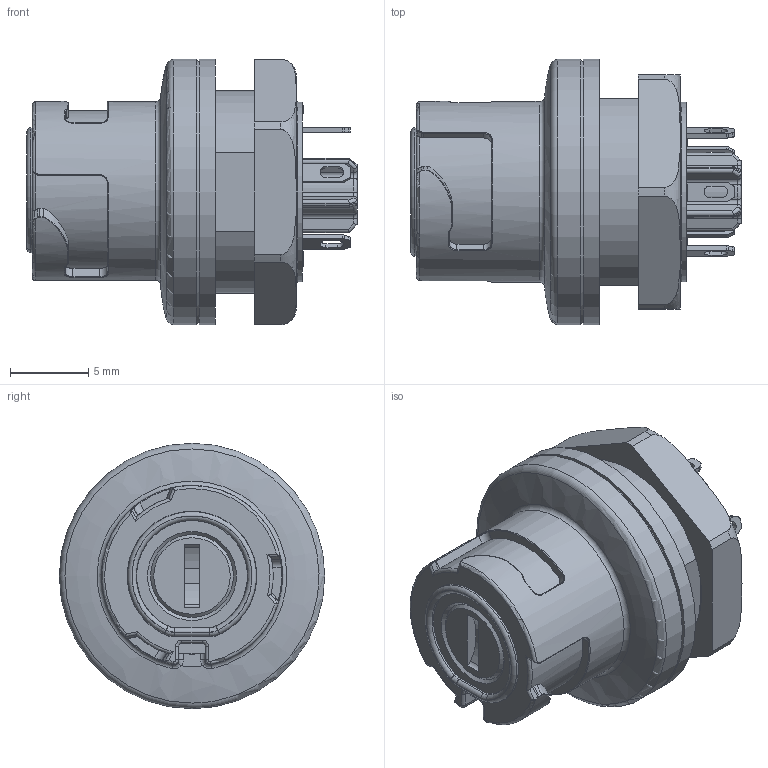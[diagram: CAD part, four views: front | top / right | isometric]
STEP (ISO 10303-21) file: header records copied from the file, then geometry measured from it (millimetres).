
FILE_DESCRIPTION(/* description */ (''),/* implementation_level */ '2;1');
FILE_NAME(/* name */ '09 0762 000 05 001.stp',/* time_stamp */ '2021-04-26T09:52:12+02:00',/* author */ (''),/* organization */ (''),/* preprocessor_version */ 'ST-DEVELOPER v16',/* originating_system */ 'SIEMENS PLM Software NX 11.0',/* authorisation */ '');
FILE_SCHEMA (('AUTOMOTIVE_DESIGN { 1 0 10303 214 3 1 1 1 }'));
Length unit declared in the file: millimetre
Products named in the file (1): rhen3BE010EE5up8
Bounding box: 21.15 x 17 x 17 mm (x, y, z)
Volume: 2433.8 mm3; surface area: 1668.4 mm2
Topology: 1 solids, 1 shells, 563 faces, 1507 edges, 967 vertices
Faces by surface type: plane 219, cylinder 186, bspline 57, torus 53, extrusion 26, cone 22
Full cylindrical faces by diameter (mm): 10 x1, 11.5 x1, 13.1 x2, 17 x2
Entity records: 20105 total; most frequent: CARTESIAN_POINT 6312, ORIENTED_EDGE 2970, DIRECTION 2738, EDGE_CURVE 1485, AXIS2_PLACEMENT_3D 993, VERTEX_POINT 959, VECTOR 752, LINE 726
